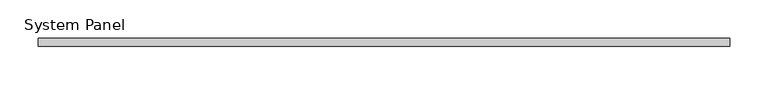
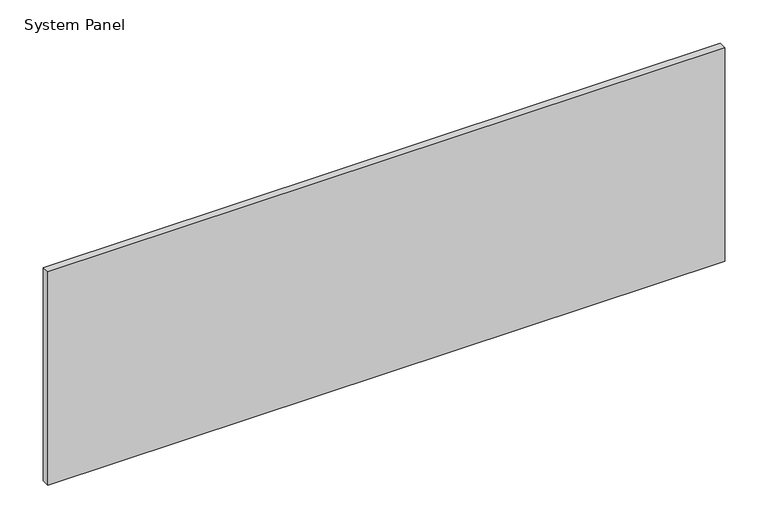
"""IFC4 building model written with IfcOpenShell, lengths in millimetres: plate geometry, System Panel : стекло_смещение_0."""

from ifc_helpers import new_model, si_unit, origin, origin_with_axes, place, context, project, spatial, polyline, outline, extrude, source, transform, mapped, element, save


def system_panel_6c5d5faa(model_context):
    return source(origin(), model_context, "Body", "SweptSolid", [
        extrude(outline(polyline([(450.0, -5.0), (-450.0, -5.0), (-450.0, 5.0), (450.0, 5.0), (450.0, -5.0)])), origin_with_axes(), (0.0, 0.0, 1.0), 300.0),
    ])


if __name__ == "__main__":
    model = new_model("IFC4")
    model_context = context("Model", 3, world=origin())
    ifc_project = project(units=[si_unit("LENGTHUNIT", "METRE", prefix="MILLI")], contexts=[model_context])
    site = spatial("IfcSite", under=ifc_project)
    building = spatial("IfcBuilding", under=site)
    placement = place(None, origin())
    system_panel_shape = system_panel_6c5d5faa(model_context)
    element("IfcPlate", 1, ObjectType="System Panel : стекло_смещение_0", at=placement, inside=building, context=model_context, shape_type="MappedRepresentation", body=[
        mapped(system_panel_shape, transform((0.0, 0.0, 0.0), x_axis=(1.0, 0.0, 0.0), y_axis=(0.0, 1.0, 0.0), z_axis=(0.0, 0.0, 1.0))),
    ])
    save(model, "model.ifc")
